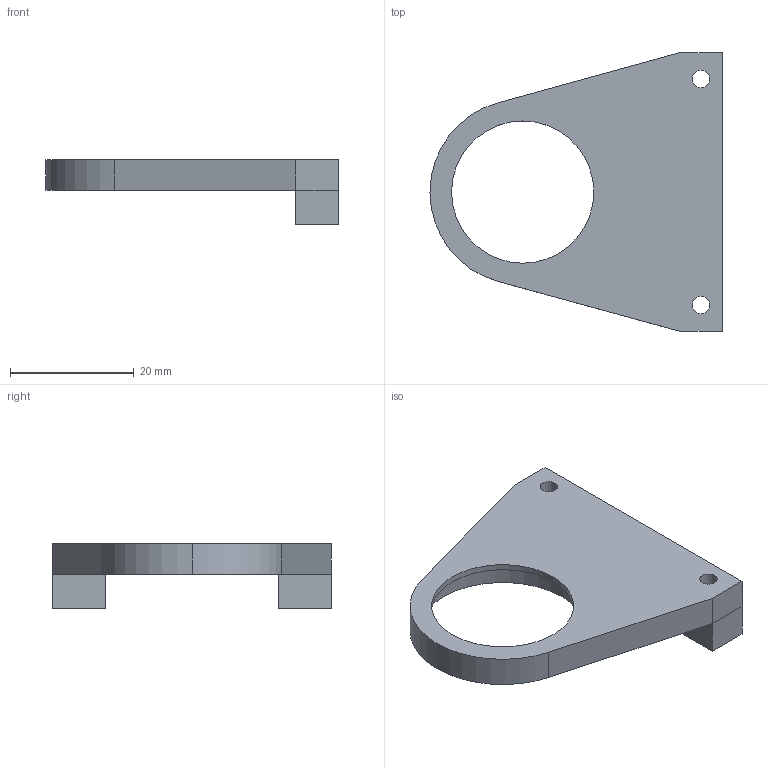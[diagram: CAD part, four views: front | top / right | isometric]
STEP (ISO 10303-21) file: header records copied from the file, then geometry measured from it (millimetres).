
FILE_DESCRIPTION (( 'STEP AP214' ), '1' );
FILE_NAME ('bearing_holder_planetary.STEP', '2020-08-29T12:54:50', ( '' ), ( '' ), 'SwSTEP 2.0', 'SolidWorks 2020', '' );
FILE_SCHEMA (( 'AUTOMOTIVE_DESIGN' ));
Length unit declared in the file: millimetre
Products named in the file (1): bearing_holder_planetary
Bounding box: 47.24 x 45.05 x 10.5 mm (x, y, z)
Volume: 5924.4 mm3; surface area: 4235.7 mm2
Topology: 2 solids, 2 shells, 29 faces, 71 edges, 47 vertices
Faces by surface type: plane 17, cylinder 12
Entity records: 920 total; most frequent: DIRECTION 155, CARTESIAN_POINT 148, ORIENTED_EDGE 142, EDGE_CURVE 71, AXIS2_PLACEMENT_3D 54, VECTOR 47, LINE 47, VERTEX_POINT 47
